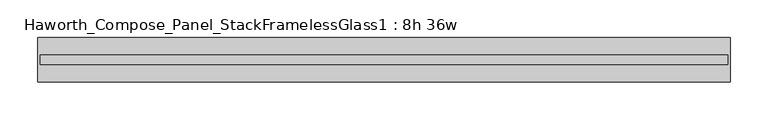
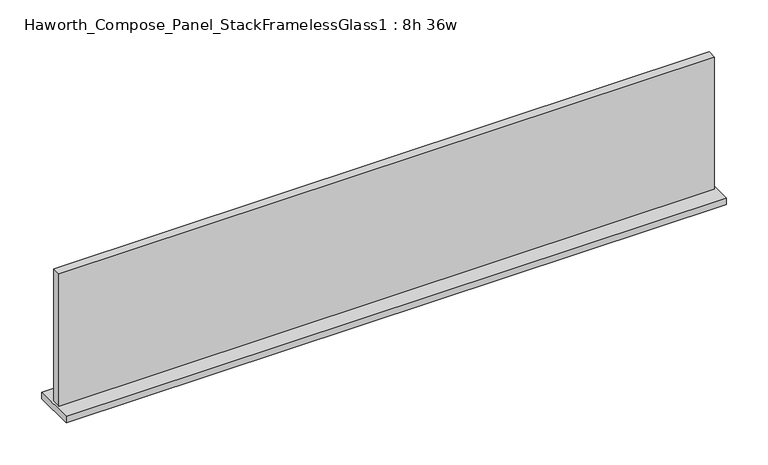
"""IFC4 building model written with IfcOpenShell, lengths in millimetres: furniture geometry, Haworth_Compose_Panel_StackFramelessGlass1 : 8h 36w."""

import ifcopenshell
import ifcopenshell.guid

model = None  # the IFC model being written
_history = None  # IfcOwnerHistory: only IFC2X3 demands one
_inside = {}  # id of a spatial element -> (the spatial element, [elements in it])
_under = {}  # id of a project, library or spatial element -> (it, [spatial elements below it])
_declared = {}  # id of a project -> (the project, [libraries it declares])
_typed = {}  # id of a type object -> (the type object, [elements of that type])
_made_of = {}  # id of a material, layer set ... -> (it, [elements and type objects made of it])


def new_model(schema):
    """Start an empty IFC model of exactly this schema.

    Asked for "IFC4X3", IfcOpenShell would pick the latest addendum, in which some entities
    have other attributes; the version numbers below select the first issue.
    IFC2X3 requires an IfcOwnerHistory on every rooted entity: one is made here for all.
    """
    global model, _history
    if schema == "IFC4X3":
        model = ifcopenshell.file(schema_version=(4, 3, 0, 0))
    else:
        model = ifcopenshell.file(schema=schema)
    _inside.clear()
    _under.clear()
    _declared.clear()
    _typed.clear()
    _made_of.clear()
    _history = None
    if model.schema == "IFC2X3":
        org = make("IfcOrganization", Name="unknown")
        user = make(
            "IfcPersonAndOrganization",
            ThePerson=make("IfcPerson", FamilyName="unknown"),
            TheOrganization=org,
        )
        app = make(
            "IfcApplication",
            ApplicationDeveloper=org,
            Version="unknown",
            ApplicationFullName="unknown",
            ApplicationIdentifier="unknown",
        )
        _history = make(
            "IfcOwnerHistory",
            OwningUser=user,
            OwningApplication=app,
            ChangeAction="ADDED",
            CreationDate=0,
        )
    return model


def make(cls, **values):
    """One entity of the class cls with the attributes given. An attribute that is None is left unset."""
    return model.create_entity(
        cls, **{name: value for name, value in values.items() if value is not None}
    )


def rooted(cls, **values):
    """An entity with a GlobalId (a new one), such as an element, a storey or a relation."""
    return make(cls, GlobalId=ifcopenshell.guid.new(), OwnerHistory=_history, **values)


def si_unit(unit_type, name, prefix=None):
    """IfcSIUnit, for example si_unit("LENGTHUNIT", "METRE", prefix="MILLI")."""
    return make("IfcSIUnit", UnitType=unit_type, Prefix=prefix, Name=name)


def assignment(units):
    """IfcUnitAssignment: the units of a project."""
    return None if units is None else make("IfcUnitAssignment", Units=units)


def point(xyz):
    """IfcCartesianPoint."""
    return None if xyz is None else make("IfcCartesianPoint", Coordinates=xyz)


def direction(xyz):
    """IfcDirection."""
    return None if xyz is None else make("IfcDirection", DirectionRatios=xyz)


def frame(location, z_axis=None, x_axis=None):
    """IfcAxis2Placement3D, a coordinate frame: its origin and axes. An axis left out is left unset."""
    return make(
        "IfcAxis2Placement3D",
        Location=point(location),
        Axis=direction(z_axis),
        RefDirection=direction(x_axis),
    )


def origin():
    """The frame at (0, 0, 0) with its axes left unset."""
    return frame((0.0, 0.0, 0.0))


def place(relative_to, where):
    """IfcLocalPlacement: puts the frame where relative to a parent placement (None: the world)."""
    return make(
        "IfcLocalPlacement", PlacementRelTo=relative_to, RelativePlacement=where
    )


def context(
    kind, dimensions, precision=None, world=None, true_north=None, identifier=None
):
    """IfcGeometricRepresentationContext, for example the 3D "Model" context."""
    return make(
        "IfcGeometricRepresentationContext",
        ContextIdentifier=identifier,
        ContextType=kind,
        CoordinateSpaceDimension=dimensions,
        Precision=precision,
        WorldCoordinateSystem=world,
        TrueNorth=true_north,
    )


def project(units=None, contexts=None):
    """IfcProject with its units and contexts."""
    return rooted(
        "IfcProject",
        Name="project",
        RepresentationContexts=contexts,
        UnitsInContext=assignment(units),
    )


def spatial(cls, under=None, at=None, **own):
    """A site, building, storey or space (cls), placed at a placement, below another one or the project."""
    s = rooted(cls, ObjectPlacement=at, **own)
    if under is not None:
        _under.setdefault(under.id(), (under, []))[1].append(s)
    return s


def polyline(points):
    """IfcPolyline through the points."""
    return make("IfcPolyline", Points=[point(p) for p in points])


def outline(outer, holes=None, kind="AREA"):
    """IfcArbitraryClosedProfileDef: a profile drawn as a closed curve; with holes, ...WithVoids."""
    if holes is None:
        return make("IfcArbitraryClosedProfileDef", ProfileType=kind, OuterCurve=outer)
    return make(
        "IfcArbitraryProfileDefWithVoids",
        ProfileType=kind,
        OuterCurve=outer,
        InnerCurves=holes,
    )


def extrude(swept, where, along, depth):
    """IfcExtrudedAreaSolid: the profile swept, set in the frame where, extruded along a direction by depth."""
    return make(
        "IfcExtrudedAreaSolid",
        SweptArea=swept,
        Position=where,
        ExtrudedDirection=direction(along),
        Depth=depth,
    )


def shape(context_of_items, identifier, shape_type, items):
    """IfcShapeRepresentation: the items that make up one representation, for example the "Body"."""
    return make(
        "IfcShapeRepresentation",
        ContextOfItems=context_of_items,
        RepresentationIdentifier=identifier,
        RepresentationType=shape_type,
        Items=items,
    )


def source(mapping_origin, context_of_items, identifier, shape_type, items):
    """IfcRepresentationMap: a shape defined once, which mapped items show again and again."""
    return make(
        "IfcRepresentationMap",
        MappingOrigin=mapping_origin,
        MappedRepresentation=shape(context_of_items, identifier, shape_type, items),
    )


def transform(
    local_origin,
    x_axis=None,
    y_axis=None,
    z_axis=None,
    scale=None,
    scale2=None,
    scale3=None,
    uniform=True,
):
    """IfcCartesianTransformationOperator3D, or its non-uniform kind. x_axis, y_axis, z_axis: its Axis1, 2, 3."""
    if uniform:
        return make(
            "IfcCartesianTransformationOperator3D",
            Axis1=direction(x_axis),
            Axis2=direction(y_axis),
            LocalOrigin=point(local_origin),
            Scale=scale,
            Axis3=direction(z_axis),
        )
    return make(
        "IfcCartesianTransformationOperator3DnonUniform",
        Axis1=direction(x_axis),
        Axis2=direction(y_axis),
        LocalOrigin=point(local_origin),
        Scale=scale,
        Axis3=direction(z_axis),
        Scale2=scale2,
        Scale3=scale3,
    )


def mapped(mapping_source, mapping_target):
    """IfcMappedItem: shows the shape of a source again, moved by a transform."""
    return make(
        "IfcMappedItem", MappingSource=mapping_source, MappingTarget=mapping_target
    )


def made_of(thing, what):
    """Note that an element or type object is made of a material, layer set ...; save() writes the relation."""
    if what is not None:
        _made_of.setdefault(what.id(), (what, []))[1].append(thing)
    return thing


def element(
    cls,
    number,
    at=None,
    inside=None,
    cuts=None,
    type_object=None,
    material=None,
    context=None,
    identifier="Body",
    shape_type=None,
    held_by="IfcProductDefinitionShape",
    body=None,
    shapes=None,
    **own,
):
    """One element of the class cls, such as IfcWall. Its Tag is "e" and its number.

    at: its placement. inside: the storey or other place that contains it. cuts: it is an
    opening in that element (IfcRelVoidsElement). A single representation is given by context,
    identifier, shape_type and body (its items); several are given by shapes. held_by: the class
    of the entity that holds the representations. save() writes the other relations.
    """
    e = rooted(cls, Tag="e%d" % number, ObjectPlacement=at, **own)
    if body is not None:
        shapes = [shape(context, identifier, shape_type, body)]
    if shapes is not None:
        e.Representation = make(held_by, Representations=shapes)
    if inside is not None:
        _inside.setdefault(inside.id(), (inside, []))[1].append(e)
    if cuts is not None:
        rooted(
            "IfcRelVoidsElement", RelatingBuildingElement=cuts, RelatedOpeningElement=e
        )
    if type_object is not None:
        _typed.setdefault(type_object.id(), (type_object, []))[1].append(e)
    return made_of(e, material)


def aggregate(whole, parts):
    """IfcRelAggregates: a whole, such as a stair, and the parts it consists of."""
    return rooted("IfcRelAggregates", RelatingObject=whole, RelatedObjects=parts)


def save(model, path):
    """Write the relations noted so far, then the file.

    IfcRelAggregates (storeys below a building ...), IfcRelContainedInSpatialStructure (elements
    in a storey), IfcRelDefinesByType, IfcRelAssociatesMaterial and IfcRelDeclares: one each for
    every whole, place, type object, material and project.
    """
    for whole, parts in _under.values():
        aggregate(whole, parts)
    for where, things in _inside.values():
        rooted(
            "IfcRelContainedInSpatialStructure",
            RelatedElements=things,
            RelatingStructure=where,
        )
    for kind, things in _typed.values():
        rooted("IfcRelDefinesByType", RelatedObjects=things, RelatingType=kind)
    for what, things in _made_of.values():
        rooted("IfcRelAssociatesMaterial", RelatedObjects=things, RelatingMaterial=what)
    for by, libraries in _declared.values():
        rooted("IfcRelDeclares", RelatingContext=by, RelatedDefinitions=libraries)
    model.write(path)


def haworth_compose_panel_stackframelessglass1_8h_36w_a8066644(model_context):
    return source(origin(), model_context, "Body", "SweptSolid", [
        extrude(outline(polyline([(456.4652902, -27.3093594), (-451.5847098, -27.3093594), (-451.5847098, -14.6093594), (456.4652902, -14.6093594), (456.4652902, -27.3093594)])), frame((0.0, 0.0, 1279.525), z_axis=(0.0, 0.0, 1.0), x_axis=(1.0, 0.0, 0.0)), (0.0, 0.0, 1.0), 193.675),
        extrude(outline(polyline([(-454.7597098, -50.3281094), (-454.7597098, 8.4093906), (459.6402902, 8.4093906), (459.6402902, -50.3281094), (-454.7597098, -50.3281094)])), frame((0.0, 0.0, 1270.0), z_axis=(0.0, 0.0, 1.0), x_axis=(1.0, 0.0, 0.0)), (0.0, 0.0, 1.0), 9.525),
    ])


if __name__ == "__main__":
    model = new_model("IFC4")
    model_context = context("Model", 3, world=origin())
    ifc_project = project(units=[si_unit("LENGTHUNIT", "METRE", prefix="MILLI")], contexts=[model_context])
    site = spatial("IfcSite", under=ifc_project)
    building = spatial("IfcBuilding", under=site)
    placement = place(None, origin())
    haworth_compose_panel_stackframelessglass1_8h_36w_shape = haworth_compose_panel_stackframelessglass1_8h_36w_a8066644(model_context)
    element("IfcFurniture", 1, ObjectType="Haworth_Compose_Panel_StackFramelessGlass1 : 8h 36w", at=placement, inside=building, context=model_context, shape_type="MappedRepresentation", body=[
        mapped(haworth_compose_panel_stackframelessglass1_8h_36w_shape, transform((0.0, 0.0, 0.0), x_axis=(1.0, 0.0, 0.0), y_axis=(0.0, 1.0, 0.0), z_axis=(0.0, 0.0, 1.0))),
    ])
    save(model, "model.ifc")
